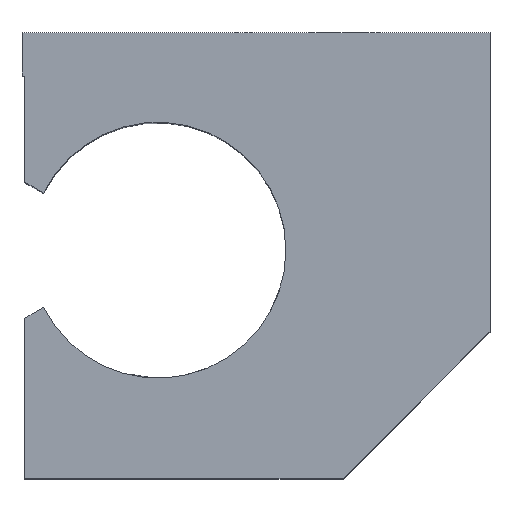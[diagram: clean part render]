
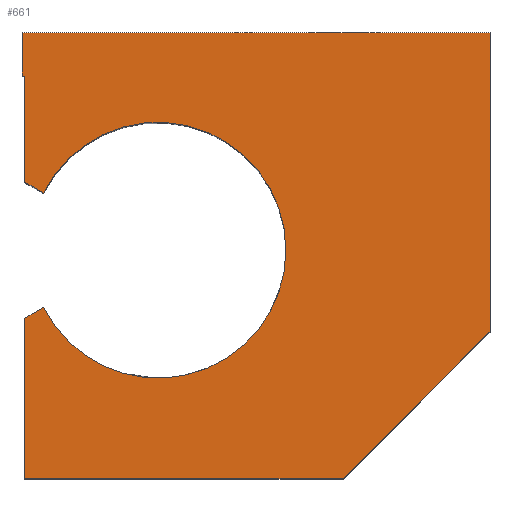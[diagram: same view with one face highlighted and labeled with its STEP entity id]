
A CAD part, top view. The second image highlights one B-rep face of the part: STEP entity #661.
In plain terms, the highlighted planar face has unit normal (0, 0, 1).
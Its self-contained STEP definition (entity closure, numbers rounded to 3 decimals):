
#112 = ORIENTED_EDGE ( 'NONE', *, *, #484, .F. ) ;
#133 = DIRECTION ( 'NONE',  ( 1., 0., 0. ) ) ;
#143 = DIRECTION ( 'NONE',  ( 0., 1., 0. ) ) ;
#152 = CARTESIAN_POINT ( 'NONE',  ( -42.5, 13.507, 39.5 ) ) ;
#159 = CARTESIAN_POINT ( 'NONE',  ( -43., 41., 39.5 ) ) ;
#167 = CARTESIAN_POINT ( 'NONE',  ( -43., 41., 39.5 ) ) ;
#168 = ORIENTED_EDGE ( 'NONE', *, *, #278, .F. ) ;
#175 = DIRECTION ( 'NONE',  ( 0., 0., 1. ) ) ;
#177 = DIRECTION ( 'NONE',  ( 0., 1., 0. ) ) ;
#183 = PLANE ( 'NONE',  #531 ) ;
#186 = DIRECTION ( 'NONE',  ( 0.866, 0.5, 0. ) ) ;
#189 = FACE_OUTER_BOUND ( 'NONE', #1363, .T. ) ;
#210 = VERTEX_POINT ( 'NONE', #288 ) ;
#223 = ORIENTED_EDGE ( 'NONE', *, *, #946, .T. ) ;
#251 = CARTESIAN_POINT ( 'NONE',  ( 16., -41., 39.5 ) ) ;
#264 = ORIENTED_EDGE ( 'NONE', *, *, #409, .T. ) ;
#278 = EDGE_CURVE ( 'NONE', #652, #315, #947, .T. ) ;
#281 = VECTOR ( 'NONE', #177, 1000. ) ;
#287 = LINE ( 'NONE', #707, #349 ) ;
#288 = CARTESIAN_POINT ( 'NONE',  ( -43., 41., 39.5 ) ) ;
#292 = DIRECTION ( 'NONE',  ( -1., 0., 0. ) ) ;
#315 = VERTEX_POINT ( 'NONE', #611 ) ;
#326 = AXIS2_PLACEMENT_3D ( 'NONE', #587, #475, #1304 ) ;
#349 = VECTOR ( 'NONE', #1129, 1000. ) ;
#372 = CARTESIAN_POINT ( 'NONE',  ( -42.5, -41., 39.5 ) ) ;
#380 = CARTESIAN_POINT ( 'NONE',  ( -39.024, 11.5, 39.5 ) ) ;
#409 = EDGE_CURVE ( 'NONE', #1150, #1154, #536, .T. ) ;
#420 = ORIENTED_EDGE ( 'NONE', *, *, #727, .F. ) ;
#475 = DIRECTION ( 'NONE',  ( 0., 0., 1. ) ) ;
#484 = EDGE_CURVE ( 'NONE', #1150, #652, #1281, .T. ) ;
#492 = LINE ( 'NONE', #602, #1090 ) ;
#510 = CARTESIAN_POINT ( 'NONE',  ( 0., 0., 39.5 ) ) ;
#524 = CARTESIAN_POINT ( 'NONE',  ( -43., -11.796, 39.5 ) ) ;
#531 = AXIS2_PLACEMENT_3D ( 'NONE', #510, #817, #607 ) ;
#536 = LINE ( 'NONE', #1079, #811 ) ;
#546 = CIRCLE ( 'NONE', #326, 23.5 ) ;
#547 = VECTOR ( 'NONE', #143, 1000. ) ;
#554 = EDGE_CURVE ( 'NONE', #798, #1038, #992, .T. ) ;
#568 = EDGE_CURVE ( 'NONE', #210, #1098, #582, .T. ) ;
#573 = AXIS2_PLACEMENT_3D ( 'NONE', #1111, #175, #595 ) ;
#581 = LINE ( 'NONE', #1211, #814 ) ;
#582 = LINE ( 'NONE', #167, #1260 ) ;
#587 = CARTESIAN_POINT ( 'NONE',  ( -18., 1., 39.5 ) ) ;
#588 = CARTESIAN_POINT ( 'NONE',  ( -42.5, -11.507, 39.5 ) ) ;
#595 = DIRECTION ( 'NONE',  ( 1., 0., 0. ) ) ;
#598 = ORIENTED_EDGE ( 'NONE', *, *, #685, .F. ) ;
#602 = CARTESIAN_POINT ( 'NONE',  ( 28.5, -28.5, 39.5 ) ) ;
#607 = DIRECTION ( 'NONE',  ( 1., 0., 0. ) ) ;
#611 = CARTESIAN_POINT ( 'NONE',  ( -39.024, -9.5, 39.5 ) ) ;
#616 = VECTOR ( 'NONE', #1212, 1000. ) ;
#621 = EDGE_CURVE ( 'NONE', #1205, #1098, #287, .T. ) ;
#643 = EDGE_CURVE ( 'NONE', #1053, #210, #1297, .T. ) ;
#652 = VERTEX_POINT ( 'NONE', #588 ) ;
#661 = ADVANCED_FACE ( 'NONE', ( #189 ), #183, .T. ) ;
#670 = CARTESIAN_POINT ( 'NONE',  ( -42.5, 33., 39.5 ) ) ;
#685 = EDGE_CURVE ( 'NONE', #1038, #1205, #581, .T. ) ;
#695 = ORIENTED_EDGE ( 'NONE', *, *, #568, .T. ) ;
#707 = CARTESIAN_POINT ( 'NONE',  ( -42.5, 33., 39.5 ) ) ;
#727 = EDGE_CURVE ( 'NONE', #315, #1232, #1156, .T. ) ;
#744 = EDGE_CURVE ( 'NONE', #1154, #1365, #492, .T. ) ;
#758 = CARTESIAN_POINT ( 'NONE',  ( 43., 41., 39.5 ) ) ;
#777 = LINE ( 'NONE', #1189, #547 ) ;
#796 = ORIENTED_EDGE ( 'NONE', *, *, #621, .F. ) ;
#798 = VERTEX_POINT ( 'NONE', #1337 ) ;
#801 = DIRECTION ( 'NONE',  ( 0., -1., 0. ) ) ;
#811 = VECTOR ( 'NONE', #133, 1000. ) ;
#813 = ORIENTED_EDGE ( 'NONE', *, *, #554, .F. ) ;
#814 = VECTOR ( 'NONE', #999, 1000. ) ;
#817 = DIRECTION ( 'NONE',  ( 0., 0., 1. ) ) ;
#835 = VECTOR ( 'NONE', #292, 1000. ) ;
#892 = ORIENTED_EDGE ( 'NONE', *, *, #643, .T. ) ;
#930 = CARTESIAN_POINT ( 'NONE',  ( 5.5, 1., 39.5 ) ) ;
#946 = EDGE_CURVE ( 'NONE', #1365, #1053, #777, .T. ) ;
#947 = LINE ( 'NONE', #524, #1283 ) ;
#967 = ORIENTED_EDGE ( 'NONE', *, *, #744, .T. ) ;
#992 = LINE ( 'NONE', #380, #616 ) ;
#999 = DIRECTION ( 'NONE',  ( 0., 1., 0. ) ) ;
#1019 = DIRECTION ( 'NONE',  ( 0.707, 0.707, 0. ) ) ;
#1038 = VERTEX_POINT ( 'NONE', #152 ) ;
#1045 = CARTESIAN_POINT ( 'NONE',  ( 43., -14., 39.5 ) ) ;
#1053 = VERTEX_POINT ( 'NONE', #758 ) ;
#1079 = CARTESIAN_POINT ( 'NONE',  ( -43., -41., 39.5 ) ) ;
#1090 = VECTOR ( 'NONE', #1019, 1000. ) ;
#1098 = VERTEX_POINT ( 'NONE', #1280 ) ;
#1111 = CARTESIAN_POINT ( 'NONE',  ( -18., 1., 39.5 ) ) ;
#1129 = DIRECTION ( 'NONE',  ( -1., 0., 0. ) ) ;
#1150 = VERTEX_POINT ( 'NONE', #372 ) ;
#1154 = VERTEX_POINT ( 'NONE', #251 ) ;
#1156 = CIRCLE ( 'NONE', #573, 23.5 ) ;
#1161 = ORIENTED_EDGE ( 'NONE', *, *, #1190, .F. ) ;
#1189 = CARTESIAN_POINT ( 'NONE',  ( 43., 41., 39.5 ) ) ;
#1190 = EDGE_CURVE ( 'NONE', #1232, #798, #546, .T. ) ;
#1205 = VERTEX_POINT ( 'NONE', #1215 ) ;
#1211 = CARTESIAN_POINT ( 'NONE',  ( -42.5, 33., 39.5 ) ) ;
#1212 = DIRECTION ( 'NONE',  ( -0.866, 0.5, 0. ) ) ;
#1215 = CARTESIAN_POINT ( 'NONE',  ( -42.5, 33., 39.5 ) ) ;
#1232 = VERTEX_POINT ( 'NONE', #930 ) ;
#1260 = VECTOR ( 'NONE', #801, 1000. ) ;
#1280 = CARTESIAN_POINT ( 'NONE',  ( -43., 33., 39.5 ) ) ;
#1281 = LINE ( 'NONE', #670, #281 ) ;
#1283 = VECTOR ( 'NONE', #186, 1000. ) ;
#1297 = LINE ( 'NONE', #159, #835 ) ;
#1304 = DIRECTION ( 'NONE',  ( 1., 0., 0. ) ) ;
#1337 = CARTESIAN_POINT ( 'NONE',  ( -39.024, 11.5, 39.5 ) ) ;
#1363 = EDGE_LOOP ( 'NONE', ( #796, #598, #813, #1161, #420, #168, #112, #264, #967, #223, #892, #695 ) ) ;
#1365 = VERTEX_POINT ( 'NONE', #1045 ) ;
